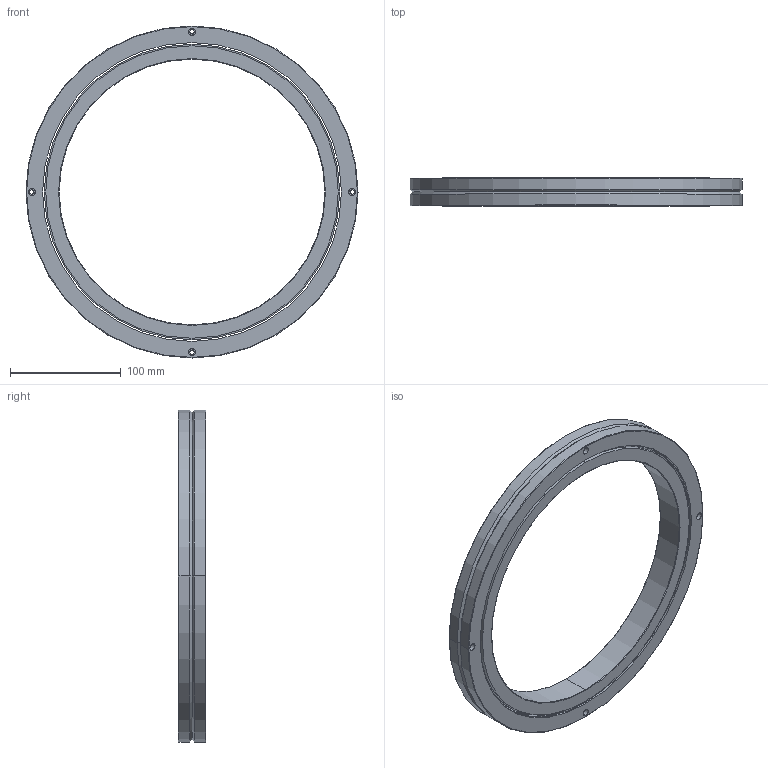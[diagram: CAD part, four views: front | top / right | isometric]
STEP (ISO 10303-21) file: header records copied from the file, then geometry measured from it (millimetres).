
FILE_DESCRIPTION((''),'2;1');
FILE_NAME('RB24025','2015-08-27T',('Administrator'),(''),'PRO/ENGINEER BY PARAMETRIC TECHNOLOGY CORPORATION, 2010180','PRO/ENGINEER BY PARAMETRIC TECHNOLOGY CORPORATION, 2010180','');
FILE_SCHEMA(('AUTOMOTIVE_DESIGN_CC2 { 1 2 10303 214 -1 1 5 2 }'));
Length unit declared in the file: millimetre
Products named in the file (1): RB24025
Bounding box: 300 x 25 x 300 mm (x, y, z)
Volume: 508764.7 mm3; surface area: 156342.5 mm2
Topology: 2 solids, 2 shells, 88 faces, 184 edges, 114 vertices
Faces by surface type: cylinder 50, plane 18, cone 12, torus 8
Entity records: 2497 total; most frequent: DIRECTION 482, CARTESIAN_POINT 386, ORIENTED_EDGE 368, AXIS2_PLACEMENT_3D 210, EDGE_CURVE 184, CIRCLE 122, VERTEX_POINT 114, EDGE_LOOP 114
